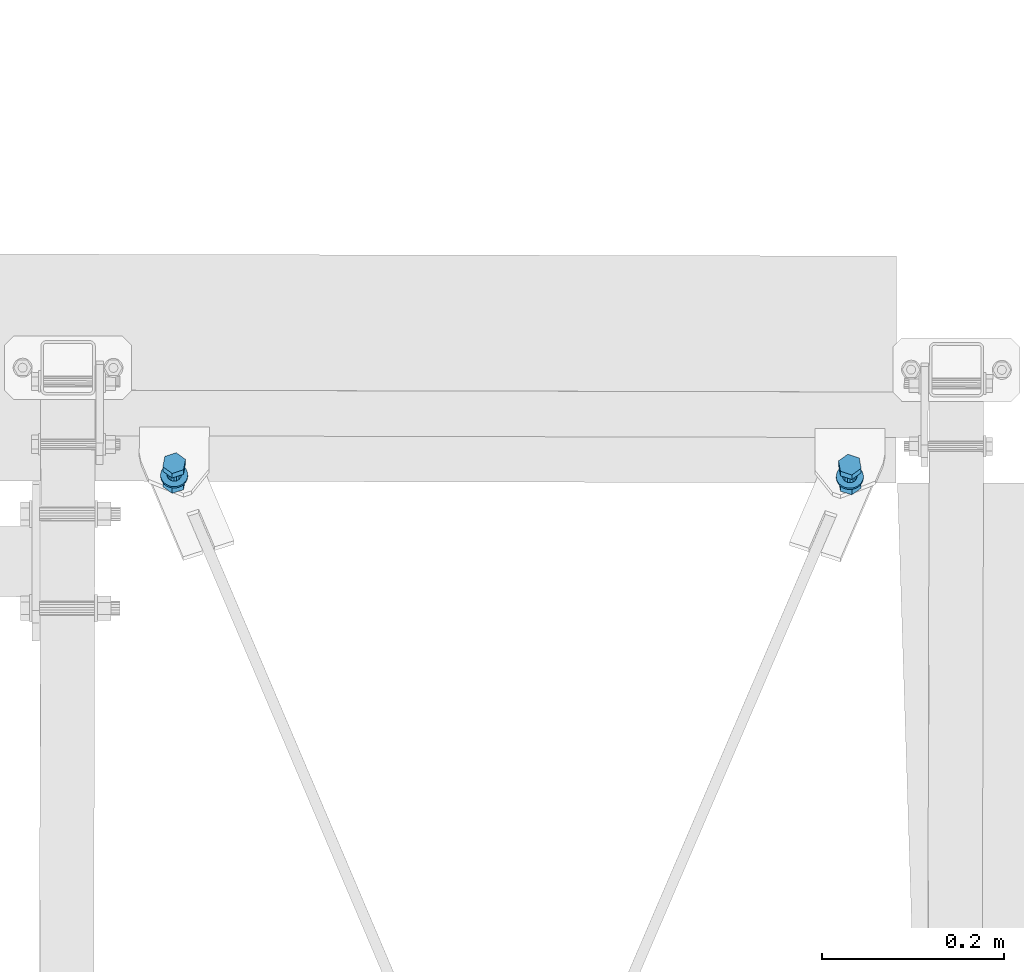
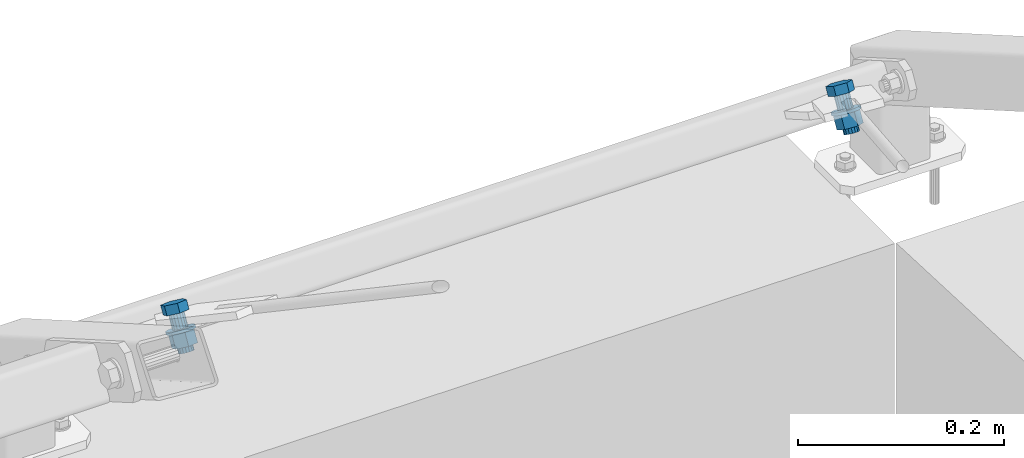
# One storey, part 229 of 288: 2 mechanical fasteners.
"""IFC2X3 building model written with IfcOpenShell, lengths in millimetres."""

from ifc_helpers import new_model, entity, si_unit, converted_unit, origin_with_axes, place, context, project, spatial, faceted_brep, element, save


model = new_model("IFC2X3")

# Units and contexts
model_context = context("Model", 3, precision=1e-09, world=origin_with_axes())
ifc_project = project(units=[si_unit("LENGTHUNIT", "METRE", prefix="MILLI"), si_unit("AREAUNIT", "SQUARE_METRE"), si_unit("VOLUMEUNIT", "CUBIC_METRE"), converted_unit("PLANEANGLEUNIT", "DEGREE", entity("IfcPlaneAngleMeasure", 0.01745329), si_unit("PLANEANGLEUNIT", "RADIAN"), dimensions=[0, 0, 0, 0, 0, 0, 0])], contexts=[model_context])

# Site, building, storey
site_placement = place(None, origin_with_axes())
site = spatial("IfcSite", under=ifc_project, at=site_placement, Name="Remont ?wietlik?w nad MC w NCPP w Opolu", CompositionType="ELEMENT")
building_placement = place(site_placement, origin_with_axes())
building = spatial("IfcBuilding", under=site, at=building_placement, Name="Konstrukcja 1", CompositionType="ELEMENT")
storey_placement = place(building_placement, origin_with_axes())
storey = spatial("IfcBuildingStorey", under=building, at=storey_placement, Name="Default Storey", CompositionType="ELEMENT", Elevation=0.0)

# Mechanical fasteners
mechanical_fastener_1_placement = place(None, origin_with_axes())
element("IfcMechanicalFastener", 1, at=mechanical_fastener_1_placement, inside=storey, ObjectType="Bolt#1", NominalDiameter=16.0, NominalLength=40.0, context=model_context, shape_type="Brep", body=[
    faceted_brep([(10970.845505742, 1742.897102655, 191.144909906), (10970.856777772, 1747.897086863, 199.805165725), (10968.632788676, 1759.320187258, 193.212952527), (10968.621516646, 1754.32020305, 184.552696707), (10978.94262422, 1766.693294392, 188.942682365), (10978.93135219, 1761.693310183, 180.282426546), (10991.476448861, 1762.64330113, 191.264625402), (10991.46517683, 1757.643316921, 182.604369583), (10993.700437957, 1751.220200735, 197.856838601), (10993.689165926, 1746.220216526, 189.196582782), (10983.390602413, 1743.847093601, 202.127108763), (10983.379330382, 1738.847109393, 193.466852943)], [[[0, 1, 2, 3]], [[3, 2, 4, 5]], [[5, 4, 6, 7]], [[7, 6, 8, 9]], [[9, 8, 10, 11]], [[11, 10, 1, 0]], [[4, 2, 1, 10, 8, 6]], [[0, 3, 5, 7, 9, 11]]]),
    faceted_brep([(10983.947634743, 1756.76112297, 183.12348748), (10983.929599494, 1748.761148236, 169.267078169), (10980.848121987, 1749.19407914, 169.021137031), (10980.866157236, 1757.194053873, 182.877546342), (10977.810670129, 1748.572917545, 169.38371713), (10977.828705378, 1756.572892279, 183.240126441), (10975.279668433, 1746.992229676, 170.299618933), (10975.297703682, 1754.99220441, 184.156028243), (10973.640438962, 1744.69266093, 171.629404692), (10973.658474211, 1752.692635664, 185.485814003), (10973.142539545, 1742.024299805, 173.17062658), (10973.160574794, 1750.024274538, 187.027035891), (10973.861770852, 1739.393380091, 174.688647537), (10973.879806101, 1747.393354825, 188.545056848), (10975.688636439, 1737.200435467, 175.952362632), (10975.706671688, 1745.200410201, 189.808771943), (10978.34501258, 1735.779321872, 176.769382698), (10978.363047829, 1743.779296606, 190.625792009), (10981.426490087, 1735.346390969, 177.015323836), (10981.444525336, 1743.346365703, 190.871733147), (10984.463941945, 1735.967552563, 176.652743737), (10984.481977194, 1743.967527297, 190.509153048), (10986.994943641, 1737.548240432, 175.736841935), (10987.01297889, 1745.548215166, 189.593251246), (10988.634173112, 1739.847809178, 174.407056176), (10988.65220836, 1747.847783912, 188.263465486), (10989.132072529, 1742.516170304, 172.865834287), (10989.150107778, 1750.516145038, 186.722243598), (10988.412841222, 1745.147090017, 171.34781333), (10988.43087647, 1753.147064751, 185.204222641), (10986.585975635, 1747.340034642, 170.084098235), (10986.604010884, 1755.340009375, 183.940507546)], [[[0, 1, 2, 3]], [[3, 2, 4, 5]], [[5, 4, 6, 7]], [[7, 6, 8, 9]], [[9, 8, 10, 11]], [[11, 10, 12, 13]], [[13, 12, 14, 15]], [[15, 14, 16, 17]], [[17, 16, 18, 19]], [[19, 18, 20, 21]], [[21, 20, 22, 23]], [[23, 22, 24, 25]], [[25, 24, 26, 27]], [[27, 26, 28, 29]], [[29, 28, 30, 31]], [[31, 30, 1, 0]], [[0, 3, 5, 7, 9, 11, 13, 15, 17, 19, 21, 23, 25, 27, 29, 31]], [[1, 30, 28, 26, 24, 22, 20, 18, 16, 14, 12, 10, 8, 6, 4, 2]]]),
    faceted_brep([(10986.372856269, 1754.440697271, 165.984819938), (10986.36947466, 1752.940702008, 163.386743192), (10983.526563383, 1753.592959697, 163.013863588), (10983.529944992, 1755.09295496, 165.611940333), (10980.591704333, 1753.752447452, 162.925603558), (10980.595085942, 1755.252442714, 165.523680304), (10977.677682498, 1753.413036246, 163.125354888), (10977.681064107, 1754.913031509, 165.723431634), (10974.896482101, 1752.587769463, 163.605441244), (10974.89986371, 1754.087764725, 166.20351799), (10972.354983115, 1751.308361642, 164.347413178), (10972.358364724, 1752.808356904, 166.945489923), (10970.150853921, 1749.623979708, 165.322757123), (10970.15423553, 1751.12397497, 167.920833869), (10968.368797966, 1747.599353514, 166.493991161), (10968.372179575, 1749.099348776, 169.092067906), (10967.077298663, 1745.31228831, 167.816105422), (10967.080680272, 1746.812283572, 170.414182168), (10966.325987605, 1742.850674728, 169.238291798), (10966.329369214, 1744.350669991, 171.836368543), (10966.143737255, 1740.309111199, 170.705896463), (10966.147118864, 1741.809106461, 173.303973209), (10966.537551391, 1737.785268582, 172.162520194), (10966.540933, 1739.285263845, 174.76059694), (10967.492295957, 1735.376136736, 173.552185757), (10967.495677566, 1736.876131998, 176.150262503), (10968.971280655, 1733.174297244, 174.821489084), (10968.974662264, 1734.674292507, 177.41956583), (10970.917668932, 1731.264365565, 175.92165156), (10970.921050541, 1732.764360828, 178.519728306), (10973.256662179, 1729.719739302, 176.810394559), (10973.260043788, 1731.219734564, 179.408471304), (10975.898374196, 1728.599777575, 177.453564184), (10975.901755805, 1730.099772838, 180.05164093), (10978.741285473, 1727.947519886, 177.826443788), (10978.744667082, 1729.447515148, 180.424520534), (10981.676144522, 1727.788032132, 177.914703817), (10981.679526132, 1729.288027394, 180.512780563), (10984.590166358, 1728.127443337, 177.714952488), (10984.593547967, 1729.6274386, 180.313029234), (10987.371366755, 1728.952710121, 177.234866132), (10987.374748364, 1730.452705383, 179.832942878), (10989.91286574, 1730.232117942, 176.492894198), (10989.91624735, 1731.732113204, 179.090970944), (10992.116994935, 1731.916499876, 175.517550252), (10992.120376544, 1733.416495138, 178.115626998), (10993.899050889, 1733.941126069, 174.346316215), (10993.902432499, 1735.441121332, 176.944392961), (10995.190550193, 1736.228191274, 173.024201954), (10995.193931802, 1737.728186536, 175.6222787), (10995.941861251, 1738.689804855, 171.602015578), (10995.94524286, 1740.189800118, 174.200092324), (10996.124111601, 1741.231368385, 170.134410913), (10996.12749321, 1742.731363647, 172.732487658), (10995.730297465, 1743.755211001, 168.677787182), (10995.733679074, 1745.255206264, 171.275863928), (10994.775552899, 1746.164342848, 167.288121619), (10994.778934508, 1747.66433811, 169.886198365), (10993.296568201, 1748.366182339, 166.018818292), (10993.29994981, 1749.866177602, 168.616895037), (10991.350179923, 1750.276114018, 164.918655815), (10991.353561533, 1751.776109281, 167.516732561), (10989.011186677, 1751.820740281, 164.029912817), (10989.014568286, 1753.320735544, 166.627989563)], [[[0, 1, 2, 3]], [[3, 2, 4, 5]], [[5, 4, 6, 7]], [[7, 6, 8, 9]], [[9, 8, 10, 11]], [[11, 10, 12, 13]], [[13, 12, 14, 15]], [[15, 14, 16, 17]], [[17, 16, 18, 19]], [[19, 18, 20, 21]], [[21, 20, 22, 23]], [[23, 22, 24, 25]], [[25, 24, 26, 27]], [[27, 26, 28, 29]], [[29, 28, 30, 31]], [[31, 30, 32, 33]], [[33, 32, 34, 35]], [[35, 34, 36, 37]], [[37, 36, 38, 39]], [[39, 38, 40, 41]], [[41, 40, 42, 43]], [[43, 42, 44, 45]], [[45, 44, 46, 47]], [[47, 46, 48, 49]], [[49, 48, 50, 51]], [[51, 50, 52, 53]], [[53, 52, 54, 55]], [[55, 54, 56, 57]], [[57, 56, 58, 59]], [[59, 58, 60, 61]], [[61, 60, 62, 63]], [[63, 62, 1, 0]], [[0, 3, 5, 7, 9, 11, 13, 15, 17, 19, 21, 23, 25, 27, 29, 31, 33, 35, 37, 39, 41, 43, 45, 47, 49, 51, 53, 55, 57, 59, 61, 63]], [[1, 62, 60, 58, 56, 54, 52, 50, 48, 46, 44, 42, 40, 38, 36, 34, 32, 30, 28, 26, 24, 22, 20, 18, 16, 14, 12, 10, 8, 6, 4, 2]]]),
    faceted_brep([(10970.807406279, 1725.997156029, 161.873245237), (10970.824088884, 1733.397132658, 174.69042385), (10968.600099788, 1744.820233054, 168.098210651), (10968.583417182, 1737.420256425, 155.281032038), (10978.909935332, 1752.193340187, 163.827940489), (10978.893252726, 1744.793363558, 151.010761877), (10991.443759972, 1748.143346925, 166.149883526), (10991.427077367, 1740.743370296, 153.332704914), (10993.667749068, 1736.72024653, 172.742096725), (10993.651066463, 1729.320269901, 159.924918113), (10983.357913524, 1729.347139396, 177.012366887), (10983.341230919, 1721.947162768, 164.195188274)], [[[0, 1, 2, 3]], [[3, 2, 4, 5]], [[5, 4, 6, 7]], [[7, 6, 8, 9]], [[9, 8, 10, 11]], [[11, 10, 1, 0]], [[4, 2, 1, 10, 8, 6]], [[0, 3, 5, 7, 9, 11]]]),
    faceted_brep([(10983.909535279, 1739.861176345, 153.851822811), (10983.902546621, 1736.761186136, 148.482464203), (10980.821069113, 1737.194117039, 148.236523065), (10980.828057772, 1740.294107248, 153.605881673), (10977.783617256, 1736.572955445, 148.599103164), (10977.790605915, 1739.672945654, 153.968461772), (10975.25261556, 1734.992267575, 149.515004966), (10975.259604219, 1738.092257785, 154.884363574), (10973.613386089, 1732.69269883, 150.844790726), (10973.620374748, 1735.792689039, 156.214149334), (10973.115486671, 1730.024337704, 152.386012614), (10973.12247533, 1733.124327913, 157.755371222), (10973.834717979, 1727.39341799, 153.904033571), (10973.841706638, 1730.4934082, 159.273392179), (10975.661583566, 1725.200473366, 155.167748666), (10975.668572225, 1728.300463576, 160.537107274), (10978.317959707, 1723.779359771, 155.984768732), (10978.324948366, 1726.879349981, 161.35412734), (10981.399437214, 1723.346428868, 156.23070987), (10981.406425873, 1726.446419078, 161.600068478), (10984.436889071, 1723.967590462, 155.868129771), (10984.44387773, 1727.067580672, 161.237488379), (10986.967890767, 1725.548278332, 154.952227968), (10986.974879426, 1728.648268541, 160.321586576), (10988.607120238, 1727.847847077, 153.622442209), (10988.614108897, 1730.947837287, 158.991800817), (10989.105019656, 1730.516208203, 152.081220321), (10989.112008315, 1733.616198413, 157.450578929), (10988.385788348, 1733.147127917, 150.563199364), (10988.392777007, 1736.247118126, 155.932557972), (10986.558922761, 1735.340072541, 149.299484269), (10986.56591142, 1738.44006275, 154.668842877)], [[[0, 1, 2, 3]], [[3, 2, 4, 5]], [[5, 4, 6, 7]], [[7, 6, 8, 9]], [[9, 8, 10, 11]], [[11, 10, 12, 13]], [[13, 12, 14, 15]], [[15, 14, 16, 17]], [[17, 16, 18, 19]], [[19, 18, 20, 21]], [[21, 20, 22, 23]], [[23, 22, 24, 25]], [[25, 24, 26, 27]], [[27, 26, 28, 29]], [[29, 28, 30, 31]], [[31, 30, 1, 0]], [[0, 3, 5, 7, 9, 11, 13, 15, 17, 19, 21, 23, 25, 27, 29, 31]], [[1, 30, 28, 26, 24, 22, 20, 18, 16, 14, 12, 10, 8, 6, 4, 2]]]),
])
mechanical_fastener_2_placement = place(None, origin_with_axes())
element("IfcMechanicalFastener", 2, at=mechanical_fastener_2_placement, inside=storey, ObjectType="Bolt#1", NominalDiameter=16.0, NominalLength=40.0, context=model_context, shape_type="Brep", body=[
    faceted_brep([(10247.002861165, 1749.533157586, 199.80273805), (10246.991589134, 1744.533173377, 191.142482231), (10249.267236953, 1755.946103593, 184.550284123), (10249.278508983, 1760.946087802, 193.210539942), (10238.99086494, 1763.365740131, 180.279944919), (10239.002136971, 1768.365724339, 188.940200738), (10226.43884511, 1759.372446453, 182.601803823), (10226.45011714, 1764.372430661, 191.262059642), (10224.163197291, 1747.959516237, 189.194001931), (10224.174469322, 1752.959500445, 197.85425775), (10234.439569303, 1740.539879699, 193.464341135), (10234.450841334, 1745.539863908, 202.124596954)], [[[0, 1, 2, 3]], [[3, 2, 4, 5]], [[5, 4, 6, 7]], [[7, 6, 8, 9]], [[9, 8, 10, 11]], [[11, 10, 1, 0]], [[3, 5, 7, 9, 11, 0]], [[2, 1, 10, 8, 6, 4]]]),
    faceted_brep([(10233.934283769, 1750.456304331, 169.26456282), (10233.952319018, 1758.456279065, 183.120972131), (10237.035723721, 1758.875275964, 182.875051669), (10237.017688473, 1750.87530123, 169.018642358), (10240.0703342, 1758.240390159, 183.237652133), (10240.052298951, 1750.240415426, 169.381242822), (10242.594158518, 1756.64827726, 184.153570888), (10242.576123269, 1748.648302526, 170.297161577), (10244.222967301, 1754.341322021, 185.483367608), (10244.204932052, 1746.341347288, 171.626958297), (10244.708789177, 1751.670737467, 187.024592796), (10244.690753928, 1743.670762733, 173.168183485), (10243.97766217, 1749.043095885, 188.542608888), (10243.959626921, 1741.043121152, 174.686199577), (10242.140893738, 1746.858431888, 189.806311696), (10242.122858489, 1738.858457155, 175.949902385), (10239.478115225, 1745.449340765, 190.623313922), (10239.460079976, 1737.449366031, 176.766904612), (10236.394710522, 1745.030343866, 190.869234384), (10236.376675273, 1737.030369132, 177.012825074), (10233.360100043, 1745.66522967, 190.506633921), (10233.342064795, 1737.665254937, 176.65022461), (10230.836275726, 1747.25734257, 189.590715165), (10230.818240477, 1739.257367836, 175.734305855), (10229.207466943, 1749.564297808, 188.260918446), (10229.189431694, 1741.564323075, 174.404509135), (10228.721645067, 1752.234882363, 186.719693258), (10228.703609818, 1744.234907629, 172.863283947), (10229.452772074, 1754.862523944, 185.201677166), (10229.434736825, 1746.862549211, 171.345267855), (10231.289540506, 1757.047187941, 183.937974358), (10231.271505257, 1749.047213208, 170.081565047)], [[[0, 1, 2, 3]], [[3, 2, 4, 5]], [[5, 4, 6, 7]], [[7, 6, 8, 9]], [[9, 8, 10, 11]], [[11, 10, 12, 13]], [[13, 12, 14, 15]], [[15, 14, 16, 17]], [[17, 16, 18, 19]], [[19, 18, 20, 21]], [[21, 20, 22, 23]], [[23, 22, 24, 25]], [[25, 24, 26, 27]], [[27, 26, 28, 29]], [[29, 28, 30, 31]], [[31, 30, 1, 0]], [[2, 1, 30, 28, 26, 24, 22, 20, 18, 16, 14, 12, 10, 8, 6, 4]], [[31, 0, 3, 5, 7, 9, 11, 13, 15, 17, 19, 21, 23, 25, 27, 29]]]),
    faceted_brep([(10231.51336632, 1754.646844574, 163.384211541), (10231.516747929, 1756.146839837, 165.982288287), (10234.36258114, 1756.786239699, 165.609427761), (10234.35919953, 1755.286244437, 163.011351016), (10237.298131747, 1756.932459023, 165.521187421), (10237.294750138, 1755.43246376, 162.923110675), (10240.210588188, 1756.579878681, 165.720958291), (10240.207206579, 1755.079883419, 163.122881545), (10242.988026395, 1755.74204814, 166.20106329), (10242.984644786, 1754.242052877, 163.602986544), (10245.523710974, 1754.451164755, 166.943052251), (10245.520329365, 1752.951169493, 164.344975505), (10247.720196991, 1752.756836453, 167.918410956), (10247.716815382, 1751.25684119, 165.32033421), (10249.493074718, 1750.724175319, 169.089656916), (10249.489693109, 1749.224180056, 166.49158017), (10250.774213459, 1748.431295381, 170.411779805), (10250.77083185, 1746.931300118, 167.813703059), (10251.51437977, 1745.966310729, 171.833971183), (10251.510998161, 1744.466315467, 169.235894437), (10251.685129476, 1743.423949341, 173.301577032), (10251.681747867, 1741.923954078, 170.703500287), (10251.279900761, 1740.901912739, 174.758198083), (10251.276519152, 1739.401917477, 172.160121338), (10250.314266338, 1738.497121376, 176.147857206), (10250.310884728, 1736.997126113, 173.54978046), (10248.825334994, 1736.301990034, 177.417150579), (10248.821953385, 1734.801994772, 174.819073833), (10246.870325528, 1734.400876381, 178.517299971), (10246.866943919, 1732.900881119, 175.919223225), (10244.524367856, 1732.866839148, 179.406027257), (10244.520986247, 1731.366843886, 176.807950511), (10241.877615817, 1731.758830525, 180.049179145), (10241.874234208, 1730.258835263, 177.451102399), (10239.031782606, 1731.119430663, 180.42203967), (10239.028400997, 1729.619435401, 177.823962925), (10236.096231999, 1730.973211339, 180.510280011), (10236.092850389, 1729.473216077, 177.912203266), (10233.183775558, 1731.325791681, 180.310509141), (10233.180393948, 1729.825796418, 177.712432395), (10230.406337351, 1732.163622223, 179.830404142), (10230.402955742, 1730.66362696, 177.232327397), (10227.870652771, 1733.454505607, 179.088415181), (10227.867271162, 1731.954510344, 176.490338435), (10225.674166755, 1735.148833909, 178.113056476), (10225.670785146, 1733.648838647, 175.51497973), (10223.901289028, 1737.181495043, 176.941810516), (10223.897907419, 1735.681499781, 174.34373377), (10222.620150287, 1739.474374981, 175.619687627), (10222.616768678, 1737.974379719, 173.021610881), (10221.879983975, 1741.939359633, 174.197496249), (10221.876602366, 1740.439364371, 171.599419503), (10221.709234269, 1744.481721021, 172.7298904), (10221.70585266, 1742.981725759, 170.131813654), (10222.114462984, 1747.003757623, 171.273269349), (10222.111081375, 1745.50376236, 168.675192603), (10223.080097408, 1749.408548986, 169.883610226), (10223.076715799, 1747.908553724, 167.28553348), (10224.569028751, 1751.603680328, 168.614316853), (10224.565647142, 1750.103685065, 166.016240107), (10226.524038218, 1753.504793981, 167.514167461), (10226.520656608, 1752.004798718, 164.916090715), (10228.869995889, 1755.038831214, 166.625440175), (10228.86661428, 1753.538835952, 164.02736343)], [[[0, 1, 2, 3]], [[3, 2, 4, 5]], [[5, 4, 6, 7]], [[7, 6, 8, 9]], [[9, 8, 10, 11]], [[11, 10, 12, 13]], [[13, 12, 14, 15]], [[15, 14, 16, 17]], [[17, 16, 18, 19]], [[19, 18, 20, 21]], [[21, 20, 22, 23]], [[23, 22, 24, 25]], [[25, 24, 26, 27]], [[27, 26, 28, 29]], [[29, 28, 30, 31]], [[31, 30, 32, 33]], [[33, 32, 34, 35]], [[35, 34, 36, 37]], [[37, 36, 38, 39]], [[39, 38, 40, 41]], [[41, 40, 42, 43]], [[43, 42, 44, 45]], [[45, 44, 46, 47]], [[47, 46, 48, 49]], [[49, 48, 50, 51]], [[51, 50, 52, 53]], [[53, 52, 54, 55]], [[55, 54, 56, 57]], [[57, 56, 58, 59]], [[59, 58, 60, 61]], [[61, 60, 62, 63]], [[63, 62, 1, 0]], [[2, 1, 62, 60, 58, 56, 54, 52, 50, 48, 46, 44, 42, 40, 38, 36, 34, 32, 30, 28, 26, 24, 22, 20, 18, 16, 14, 12, 10, 8, 6, 4]], [[63, 0, 3, 5, 7, 9, 11, 13, 15, 17, 19, 21, 23, 25, 27, 29, 31, 33, 35, 37, 39, 41, 43, 45, 47, 49, 51, 53, 55, 57, 59, 61]]]),
    faceted_brep([(10246.970172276, 1735.033203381, 174.687996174), (10246.953489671, 1727.633226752, 161.870817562), (10249.229137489, 1739.046156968, 155.278619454), (10249.245820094, 1746.446133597, 168.095798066), (10238.952765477, 1746.465793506, 151.00828025), (10238.969448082, 1753.865770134, 163.825458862), (10226.400745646, 1742.472499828, 153.330139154), (10226.417428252, 1749.872476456, 166.147317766), (10224.125097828, 1731.059569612, 159.922337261), (10224.141780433, 1738.45954624, 172.739515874), (10234.40146984, 1723.639933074, 164.192676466), (10234.418152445, 1731.039909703, 177.009855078)], [[[0, 1, 2, 3]], [[3, 2, 4, 5]], [[5, 4, 6, 7]], [[7, 6, 8, 9]], [[9, 8, 10, 11]], [[11, 10, 1, 0]], [[3, 5, 7, 9, 11, 0]], [[2, 1, 10, 8, 6, 4]]]),
    faceted_brep([(10233.907230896, 1738.45634223, 148.479948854), (10233.914219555, 1741.55633244, 153.849307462), (10236.997624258, 1741.975329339, 153.603387), (10236.990635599, 1738.875339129, 148.234028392), (10240.032234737, 1741.340443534, 153.965987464), (10240.025246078, 1738.240453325, 148.596628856), (10242.556059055, 1739.748330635, 154.881906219), (10242.549070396, 1736.648340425, 149.512547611), (10244.184867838, 1737.441375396, 156.211702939), (10244.177879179, 1734.341385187, 150.842344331), (10244.670689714, 1734.770790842, 157.752928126), (10244.663701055, 1731.670800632, 152.383569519), (10243.939562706, 1732.14314926, 159.270944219), (10243.932574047, 1729.043159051, 153.901585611), (10242.102794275, 1729.958485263, 160.534647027), (10242.095805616, 1726.858495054, 155.165288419), (10239.440015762, 1728.54939414, 161.351649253), (10239.433027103, 1725.449403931, 155.982290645), (10236.356611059, 1728.130397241, 161.597569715), (10236.3496224, 1725.030407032, 156.228211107), (10233.32200058, 1728.765283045, 161.234969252), (10233.315011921, 1725.665292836, 155.865610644), (10230.798176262, 1730.357395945, 160.319050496), (10230.791187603, 1727.257405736, 154.949691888), (10229.169367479, 1732.664351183, 158.989253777), (10229.16237882, 1729.564360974, 153.619895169), (10228.683545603, 1735.334935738, 157.448028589), (10228.676556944, 1732.234945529, 152.078669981), (10229.414672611, 1737.962577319, 155.930012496), (10229.407683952, 1734.86258711, 150.560653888), (10231.251441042, 1740.147241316, 154.666309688), (10231.244452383, 1737.047251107, 149.29695108)], [[[0, 1, 2, 3]], [[3, 2, 4, 5]], [[5, 4, 6, 7]], [[7, 6, 8, 9]], [[9, 8, 10, 11]], [[11, 10, 12, 13]], [[13, 12, 14, 15]], [[15, 14, 16, 17]], [[17, 16, 18, 19]], [[19, 18, 20, 21]], [[21, 20, 22, 23]], [[23, 22, 24, 25]], [[25, 24, 26, 27]], [[27, 26, 28, 29]], [[29, 28, 30, 31]], [[31, 30, 1, 0]], [[2, 1, 30, 28, 26, 24, 22, 20, 18, 16, 14, 12, 10, 8, 6, 4]], [[31, 0, 3, 5, 7, 9, 11, 13, 15, 17, 19, 21, 23, 25, 27, 29]]]),
])

save(model, "model.ifc")
